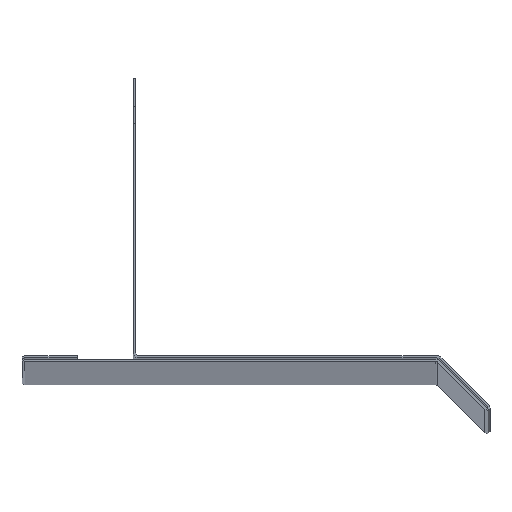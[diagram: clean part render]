
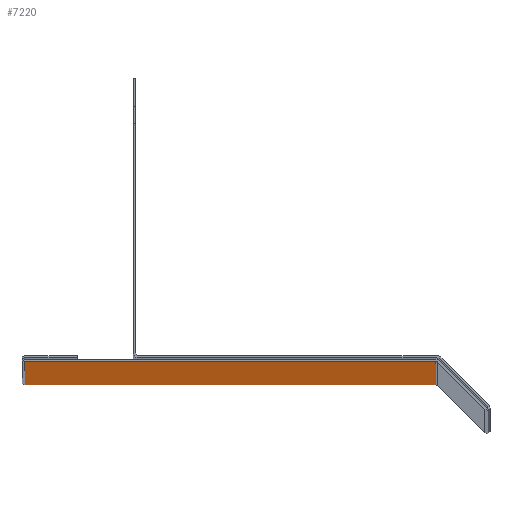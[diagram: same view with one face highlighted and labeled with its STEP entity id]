
A CAD part, top view. The second image highlights one B-rep face of the part: STEP entity #7220.
In plain terms, the highlighted planar face has unit normal (0, -1, 0).
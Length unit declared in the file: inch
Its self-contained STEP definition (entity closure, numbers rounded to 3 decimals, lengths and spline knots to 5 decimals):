
#346=PLANE('',#7924);
#690=FACE_OUTER_BOUND('',#1196,.T.);
#1196=EDGE_LOOP('',(#6643,#6644,#6645,#6646));
#1884=LINE('',#12038,#2576);
#1885=LINE('',#12041,#2577);
#1886=LINE('',#12043,#2578);
#1887=LINE('',#12044,#2579);
#2576=VECTOR('',#9968,0.3937);
#2577=VECTOR('',#9971,0.3937);
#2578=VECTOR('',#9972,0.3937);
#2579=VECTOR('',#9973,0.3937);
#3605=VERTEX_POINT('',#12034);
#3606=VERTEX_POINT('',#12036);
#3607=VERTEX_POINT('',#12040);
#3608=VERTEX_POINT('',#12042);
#4632=EDGE_CURVE('',#3605,#3606,#1884,.T.);
#4633=EDGE_CURVE('',#3605,#3607,#1885,.T.);
#4634=EDGE_CURVE('',#3608,#3606,#1886,.T.);
#4635=EDGE_CURVE('',#3607,#3608,#1887,.T.);
#6643=ORIENTED_EDGE('',*,*,#4633,.F.);
#6644=ORIENTED_EDGE('',*,*,#4632,.T.);
#6645=ORIENTED_EDGE('',*,*,#4634,.F.);
#6646=ORIENTED_EDGE('',*,*,#4635,.F.);
#7220=ADVANCED_FACE('',(#690),#346,.T.);
#7924=AXIS2_PLACEMENT_3D('',#12039,#9969,#9970);
#9968=DIRECTION('',(0.,0.,-1.));
#9969=DIRECTION('center_axis',(0.,-1.,
0.));
#9970=DIRECTION('ref_axis',(-1.,0.,0.));
#9971=DIRECTION('',(1.,0.,0.));
#9972=DIRECTION('',(-1.,0.,0.));
#9973=DIRECTION('',(0.,0.,-1.));
#12034=CARTESIAN_POINT('',(-2.51972,-0.9457,0.));
#12036=CARTESIAN_POINT('',(-2.51972,-0.9457,-120.));
#12038=CARTESIAN_POINT('',(-2.51972,-0.9457,0.));
#12039=CARTESIAN_POINT('Origin',(1.15991,-0.94634,0.));
#12040=CARTESIAN_POINT('',(1.15991,-0.94634,0.));
#12041=CARTESIAN_POINT('',(-2.51972,-0.9457,0.));
#12042=CARTESIAN_POINT('',(1.15991,-0.94634,-120.));
#12043=CARTESIAN_POINT('',(-2.51972,-0.9457,-120.));
#12044=CARTESIAN_POINT('',(1.15991,-0.94634,0.));
